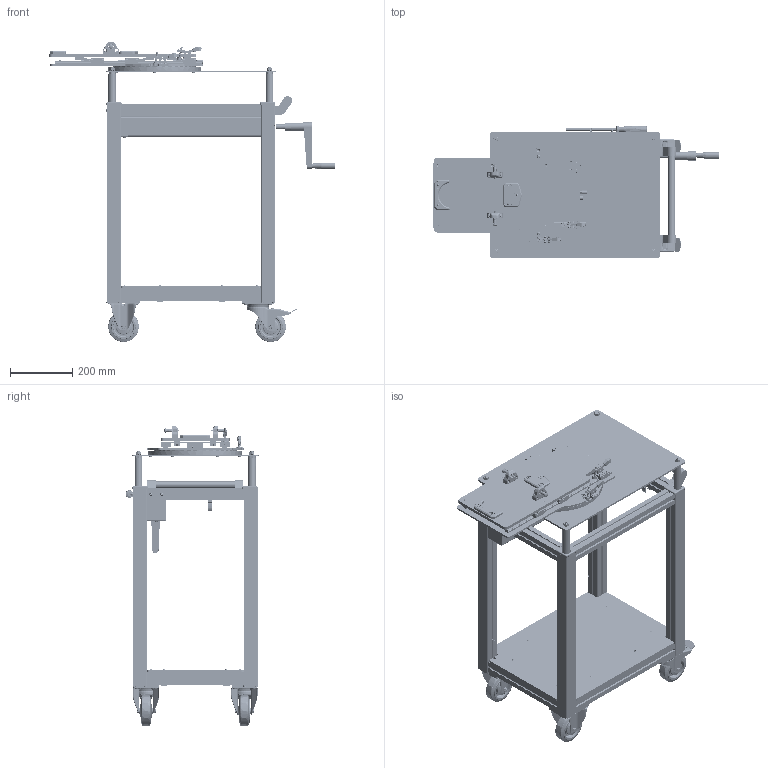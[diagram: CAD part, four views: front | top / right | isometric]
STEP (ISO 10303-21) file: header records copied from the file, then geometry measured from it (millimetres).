
FILE_DESCRIPTION(('Confidential','CAx-IF Rec.Pracs.--- Model Styling and Organization---1.2---2011-12-15','CAx-IF Rec.Pracs.--- Geometric and Assembly Validation Properties ---3.1---2011-10-19'),'2;1');
FILE_NAME('W:\KONSTRUKTION\PRODUCTS\FRM\FRMCART\FRMCARTZXRVS\FRMCARTZXRVS_Rev_F.stp','2026-03-17T14:45:55+00:00',('none'),('Ferrovac AG'),'CATIA Version 5 Release 21 SP 6 (IN-10)','CATIA V5 STEP AP214 Edition 3','PROPERTY OF FERROVAC AG');
FILE_SCHEMA(('AUTOMOTIVE_DESIGN { 1 0 10303 214 3 1 1 1 }'));
Products named in the file (1): FRMCARTZXRVS
Bounding box: 915.54 x 426.41 x 963.41 mm (x, y, z)
Volume: 13146472.2 mm3; surface area: 5525641.5 mm2
Topology: 3 solids, 313 shells, 23915 faces, 65915 edges, 42273 vertices
Faces by surface type: plane 9717, cylinder 7285, cone 3078, torus 1811, bspline 1238, extrusion 492, sphere 286, revolution 8
Entity records: 901964 total; most frequent: CARTESIAN_POINT 336370, ORIENTED_EDGE 130600, DIRECTION 89100, EDGE_CURVE 65300, VERTEX_POINT 42245, AXIS2_PLACEMENT_3D 38330, VECTOR 31178, LINE 30686
